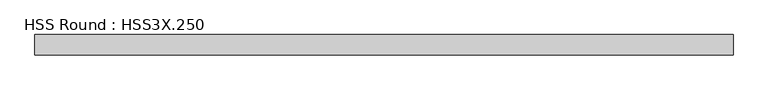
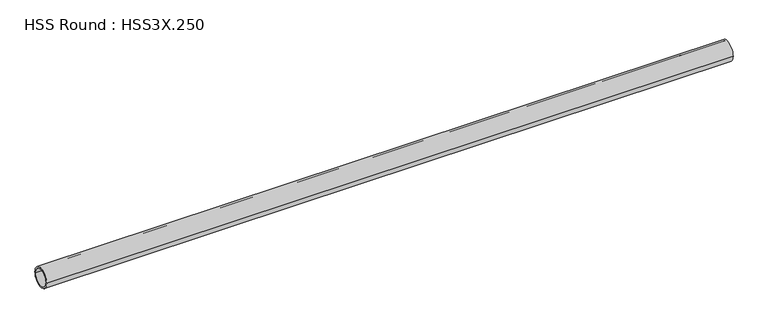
"""IFC4 building model written with IfcOpenShell, lengths in millimetres: member geometry, HSS Round : HSS3X.250."""

from ifc_helpers import new_model, si_unit, point, frame, origin, origin_2d, place, context, project, spatial, circle_curve, trimmed, segment, composite_curve, outline, extrude, source, transform, mapped, element, save


def hss_round_hss3x_250_d19ba9f0(model_context):
    return source(origin(), model_context, "Body", "SweptSolid", [
        extrude(outline(composite_curve([segment(trimmed(circle_curve(origin_2d(), 38.1), [point((-38.1, 0.0))], [point((38.1, 0.0))], False, "CARTESIAN"), True, "CONTINUOUS"), segment(trimmed(circle_curve(origin_2d(), 38.1), [point((38.1, 0.0))], [point((-38.1, 0.0))], False, "CARTESIAN"), True, "CONTINUOUS")], self_intersect=False), holes=[composite_curve([segment(trimmed(circle_curve(origin_2d(), 31.75), [point((31.75, 0.0))], [point((-31.75, 0.0))], True, "CARTESIAN"), True, "CONTINUOUS"), segment(trimmed(circle_curve(origin_2d(), 31.75), [point((-31.75, 0.0))], [point((31.75, 0.0))], True, "CARTESIAN"), True, "CONTINUOUS")], self_intersect=False)]), frame((-1265.367761, 0.0, 0.0), z_axis=(1.0, 0.0, 0.0), x_axis=(0.0, 1.0, 0.0)), (0.0, 0.0, 1.0), 2588.7464976),
    ])


if __name__ == "__main__":
    model = new_model("IFC4")
    model_context = context("Model", 3, world=origin())
    ifc_project = project(units=[si_unit("LENGTHUNIT", "METRE", prefix="MILLI")], contexts=[model_context])
    site = spatial("IfcSite", under=ifc_project)
    building = spatial("IfcBuilding", under=site)
    placement = place(None, origin())
    hss_round_hss3x_250_shape = hss_round_hss3x_250_d19ba9f0(model_context)
    element("IfcMember", 1, ObjectType="HSS Round : HSS3X.250", at=placement, inside=building, context=model_context, shape_type="MappedRepresentation", body=[
        mapped(hss_round_hss3x_250_shape, transform((0.0, 0.0, 0.0), x_axis=(1.0, 0.0, 0.0), y_axis=(0.0, 1.0, 0.0), z_axis=(0.0, 0.0, 1.0))),
    ])
    save(model, "model.ifc")
